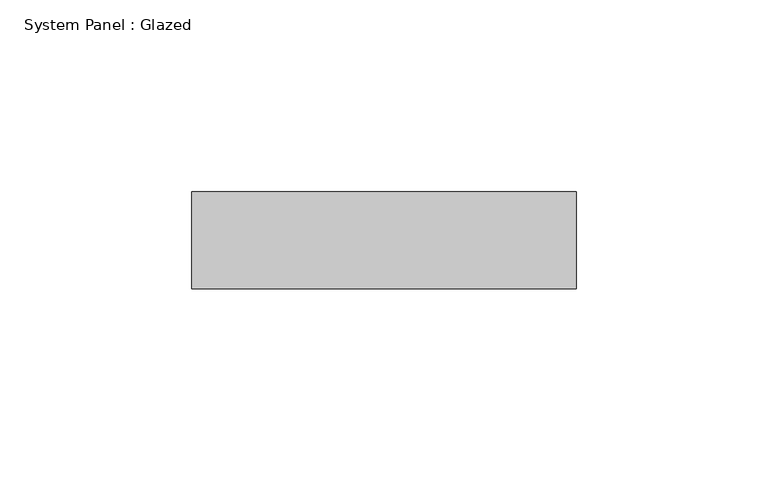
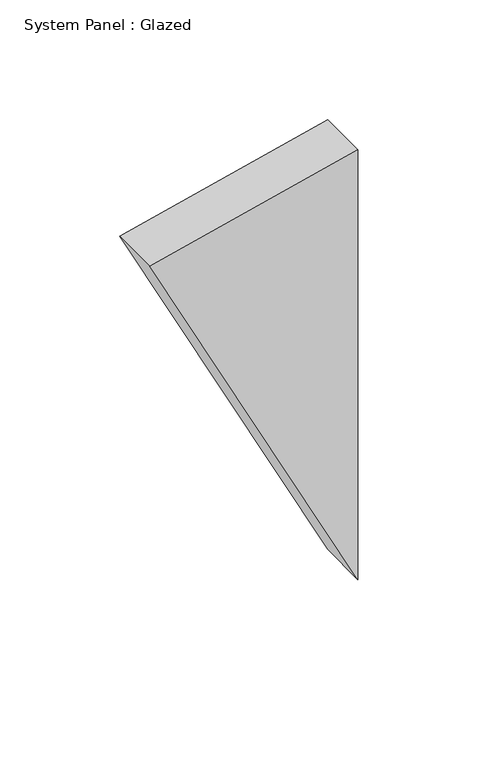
"""IFC4 building model written with IfcOpenShell, lengths in millimetres: plate geometry, System Panel : Glazed."""

from ifc_helpers import new_model, si_unit, frame, origin, place, context, project, spatial, polyline, outline, extrude, source, transform, mapped, element, save


def system_panel_glazed_d98a6b36(model_context):
    return source(origin(), model_context, "Body", "SweptSolid", [
        extrude(outline(polyline([(195.032015, -50.2226376), (0.0, 50.2226376), (219.3780759, 50.2221274), (195.032015, -50.2226376)])), frame((0.0, -44.45, 0.0), z_axis=(0.0, 1.0, 0.0), x_axis=(0.0, 0.0, 1.0)), (0.0, 0.0, 1.0), 25.4),
    ])


if __name__ == "__main__":
    model = new_model("IFC4")
    model_context = context("Model", 3, world=origin())
    ifc_project = project(units=[si_unit("LENGTHUNIT", "METRE", prefix="MILLI")], contexts=[model_context])
    site = spatial("IfcSite", under=ifc_project)
    building = spatial("IfcBuilding", under=site)
    placement = place(None, origin())
    system_panel_glazed_shape = system_panel_glazed_d98a6b36(model_context)
    element("IfcPlate", 1, ObjectType="System Panel : Glazed", at=placement, inside=building, context=model_context, shape_type="MappedRepresentation", body=[
        mapped(system_panel_glazed_shape, transform((0.0, 0.0, 0.0), x_axis=(1.0, 0.0, 0.0), y_axis=(0.0, 1.0, 0.0), z_axis=(0.0, 0.0, 1.0))),
    ])
    save(model, "model.ifc")
